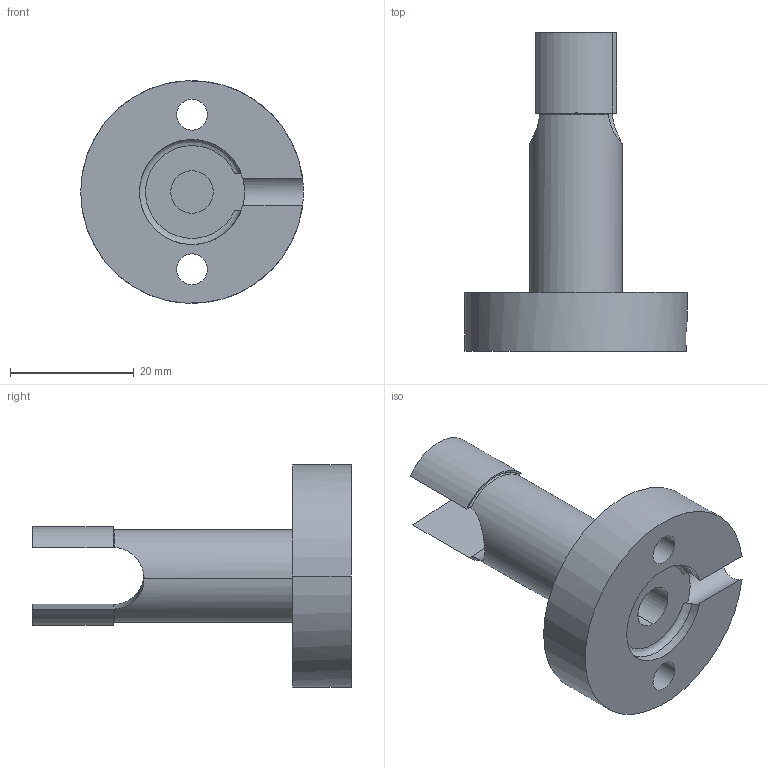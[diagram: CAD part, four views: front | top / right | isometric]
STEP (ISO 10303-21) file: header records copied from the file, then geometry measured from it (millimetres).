
FILE_DESCRIPTION((''),'2;1');
FILE_NAME('ASM0001_ASM','2022-11-09T00:34:55',('19372'),(''),'CREO PARAMETRIC BY PTC INC, 2021023','CREO PARAMETRIC BY PTC INC, 2021023','');
FILE_SCHEMA(('CONFIG_CONTROL_DESIGN','SHAPE_APPEARANCE_LAYERS_GROUPS'));
Length unit declared in the file: millimetre
Products named in the file (3): PRT0001; CLMC-I--STAND; ASM0001_ASM
Assembly tree (2 placements, depth 2):
  ASM0001_ASM
    PRT0001
    CLMC-I--STAND
Bounding box: 36 x 51.5 x 36 mm (x, y, z)
Volume: 13494.7 mm3; surface area: 6184.6 mm2
Topology: 2 solids, 2 shells, 38 faces, 137 edges, 114 vertices
Faces by surface type: cylinder 22, plane 13, torus 3
Entity records: 2144 total; most frequent: CARTESIAN_POINT 429, DIRECTION 290, ORIENTED_EDGE 204, AXIS2_PLACEMENT_3D 123, EDGE_CURVE 102, PRESENTATION_STYLE_ASSIGNMENT 76, STYLED_ITEM 76, CIRCLE 74
